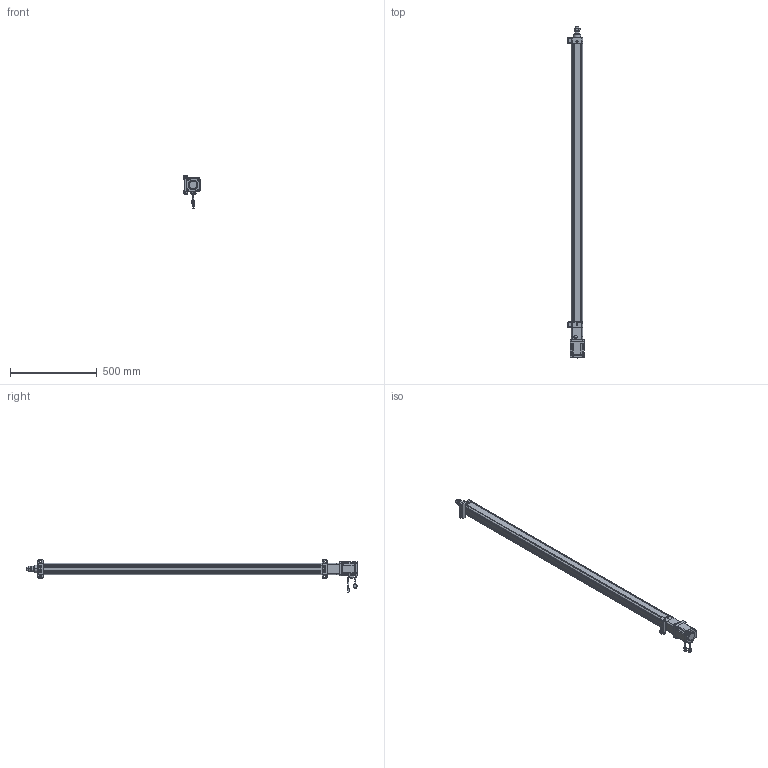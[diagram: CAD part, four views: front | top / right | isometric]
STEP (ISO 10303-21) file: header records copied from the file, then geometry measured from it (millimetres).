
FILE_DESCRIPTION((''),'2;1');
FILE_NAME('HE50-D-100-X1_ASM','2020-05-08T',('ASUS20200'),(''),'CREO PARAMETRIC BY PTC INC, 2014190','CREO PARAMETRIC BY PTC INC, 2014190','');
FILE_SCHEMA(('CONFIG_CONTROL_DESIGN'));
Length unit declared in the file: millimetre
Products named in the file (28): HE50-D-P-001-X1; HE50-D-P-002-X1; HE50-D-P-003-X1; HE50-D-009-X1; HE50-D-010-X1; 6301ZZ; LGLM-M8-22; SKT-16; SLM-01; YZ-M6X1; _MHMF082L1A2; _CABLE_MOTOR_BOTTOM_05; _CABLE_MOTOR_TOP_05; _MOTOR_CONNECTOR_2; _CABLE_BRAKE_BOTTOM_05; _CABLE_BRAKE_TOP_05; _MHMF_CONNECTOR_9_PIN_A6; MHMF082L1A2M2_1_ASM; M6X16; JX6X6X20; JDB303820; HE50-P-015-X1; HE50-P-016-X1; M8X25; HE50-D-P-005-X1; HE50-D-P-004-X1; HE50-D-P-008-X1; HE50-D-100-X1_ASM
Assembly tree (40 placements, depth 3):
  HE50-D-100-X1_ASM
    HE50-D-P-001-X1
    HE50-D-P-002-X1
    HE50-D-P-003-X1
    HE50-D-009-X1
    HE50-D-010-X1
    6301ZZ
    LGLM-M8-22  x8
    SKT-16
    SLM-01
    YZ-M6X1
    MHMF082L1A2M2_1_ASM
      _MHMF082L1A2
      _CABLE_MOTOR_BOTTOM_05
      _CABLE_MOTOR_TOP_05
      _MOTOR_CONNECTOR_2
      _CABLE_BRAKE_BOTTOM_05
      _CABLE_BRAKE_TOP_05
      _MHMF_CONNECTOR_9_PIN_A6
    M6X16  x4
    JX6X6X20
    JDB303820
    HE50-P-015-X1
    HE50-P-016-X1
    M8X25  x4
    HE50-D-P-005-X1
    HE50-D-P-004-X1
    HE50-D-P-008-X1
Bounding box: 92 x 1908.4 x 186.15 mm (x, y, z)
Volume: 3914328.6 mm3; surface area: 1192460.2 mm2
Topology: 39 solids, 71 shells, 2540 faces, 6183 edges, 3863 vertices
Faces by surface type: plane 1103, cylinder 733, cone 539, torus 118, sphere 44, bspline 3
Entity records: 65410 total; most frequent: CARTESIAN_POINT 12172, DIRECTION 11725, ORIENTED_EDGE 10416, EDGE_CURVE 5267, AXIS2_PLACEMENT_3D 4377, VERTEX_POINT 3322, VECTOR 2971, LINE 2971
